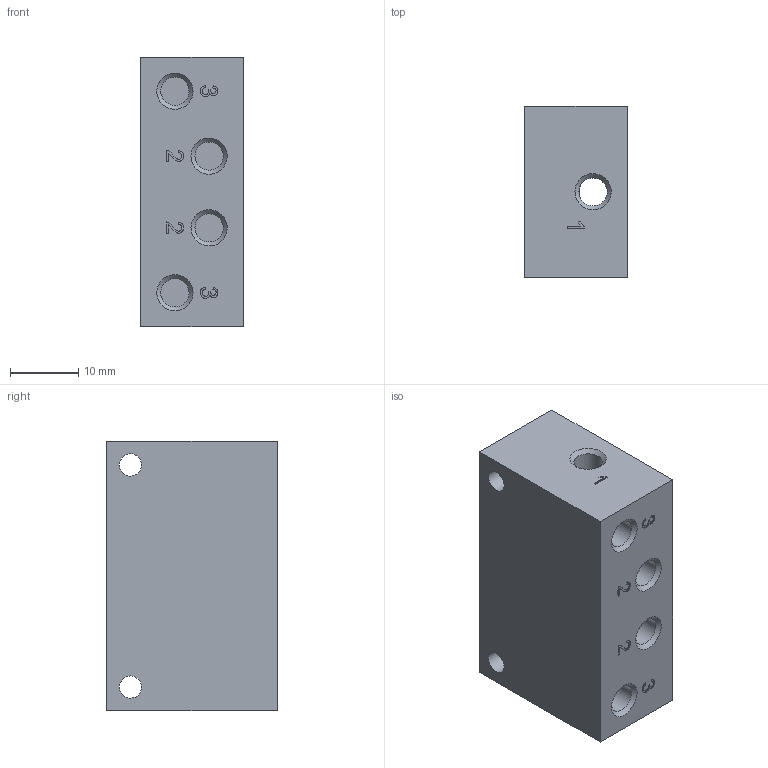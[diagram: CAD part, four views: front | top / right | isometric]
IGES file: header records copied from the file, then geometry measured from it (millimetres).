
Global section: file name: 395_02; native system: Autodesk Inventor 2014; preprocessor: unknown; author: R.Rivoltella; organization: Pneumax S.p.A.; date: 20161005.082353; units: millimetre
Bounding box: 15 x 25 x 39.5 mm (x, y, z)
Volume: 13527.8 mm3; surface area: 5087.4 mm2
Topology: 1 solids, 1 shells, 119 faces, 333 edges, 228 vertices
Faces by surface type: bspline 119
